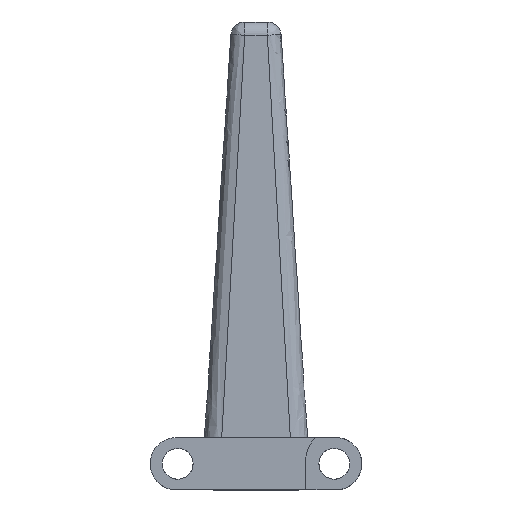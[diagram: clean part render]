
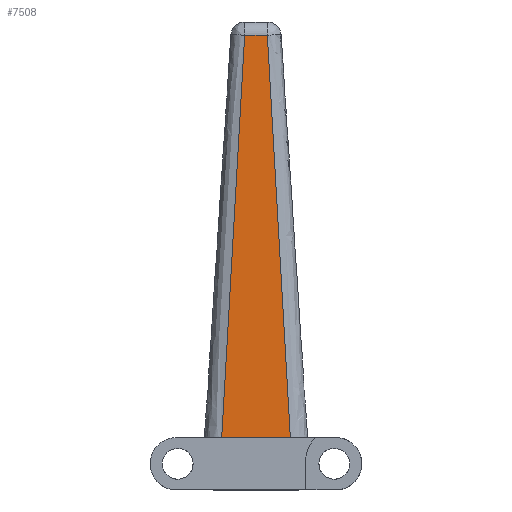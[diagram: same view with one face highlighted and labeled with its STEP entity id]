
A CAD part, front view. The second image highlights one B-rep face of the part: STEP entity #7508.
In plain terms, the highlighted planar face has unit normal (0, -1, 0.009).
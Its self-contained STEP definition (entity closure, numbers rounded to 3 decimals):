
#701 = EDGE_CURVE ( 'NONE', #7469, #15971, #5907, .T. ) ;
#759 = CARTESIAN_POINT ( 'NONE',  ( -8.5, -73.246, 4.301 ) ) ;
#922 = ORIENTED_EDGE ( 'NONE', *, *, #959, .T. ) ;
#959 = EDGE_CURVE ( 'NONE', #17184, #7469, #5886, .T. ) ;
#1034 = DIRECTION ( 'NONE',  ( 1., 0., 0. ) ) ;
#2176 = CARTESIAN_POINT ( 'NONE',  ( -5.645, -73.246, 4.301 ) ) ;
#2269 = CARTESIAN_POINT ( 'NONE',  ( -3.126, -72.861, 48.427 ) ) ;
#2972 = CARTESIAN_POINT ( 'NONE',  ( 5.646, -73.246, 4.301 ) ) ;
#3526 = CARTESIAN_POINT ( 'NONE',  ( -4.386, -73.054, 26.364 ) ) ;
#4461 = DIRECTION ( 'NONE',  ( 0., -0.009, -1. ) ) ;
#4789 = EDGE_CURVE ( 'NONE', #13370, #17184, #10507, .T. ) ;
#5843 = B_SPLINE_CURVE_WITH_KNOTS ( 'NONE', 3,
 ( #15752, #2269, #3526, #2176 ),
 .UNSPECIFIED., .F., .F.,
 ( 4, 4 ),
 ( 0.032, 1. ),
 .UNSPECIFIED. ) ;
#5886 = B_SPLINE_CURVE_WITH_KNOTS ( 'NONE', 3,
 ( #16733, #7291, #12558, #6954 ),
 .UNSPECIFIED., .F., .F.,
 ( 4, 4 ),
 ( 0., 0.968 ),
 .UNSPECIFIED. ) ;
#5907 = LINE ( 'NONE', #12604, #14048 ) ;
#6219 = ORIENTED_EDGE ( 'NONE', *, *, #11859, .T. ) ;
#6954 = CARTESIAN_POINT ( 'NONE',  ( 1.868, -72.669, 70.49 ) ) ;
#7291 = CARTESIAN_POINT ( 'NONE',  ( 4.387, -73.054, 26.364 ) ) ;
#7469 = VERTEX_POINT ( 'NONE', #16593 ) ;
#7508 = ADVANCED_FACE ( 'NONE', ( #9816 ), #12413, .T. ) ;
#8334 = AXIS2_PLACEMENT_3D ( 'NONE', #16681, #12756, #4461 ) ;
#8567 = VECTOR ( 'NONE', #1034, 1000. ) ;
#9115 = CARTESIAN_POINT ( 'NONE',  ( -5.645, -73.246, 4.301 ) ) ;
#9816 = FACE_OUTER_BOUND ( 'NONE', #12439, .T. ) ;
#10507 = LINE ( 'NONE', #759, #8567 ) ;
#11859 = EDGE_CURVE ( 'NONE', #15971, #13370, #5843, .T. ) ;
#11967 = ORIENTED_EDGE ( 'NONE', *, *, #701, .T. ) ;
#12413 = PLANE ( 'NONE',  #8334 ) ;
#12439 = EDGE_LOOP ( 'NONE', ( #922, #11967, #6219, #17414 ) ) ;
#12558 = CARTESIAN_POINT ( 'NONE',  ( 3.127, -72.861, 48.427 ) ) ;
#12604 = CARTESIAN_POINT ( 'NONE',  ( -8.5, -72.669, 70.49 ) ) ;
#12756 = DIRECTION ( 'NONE',  ( 0., -1., 0.009 ) ) ;
#13370 = VERTEX_POINT ( 'NONE', #9115 ) ;
#14048 = VECTOR ( 'NONE', #17048, 1000. ) ;
#15752 = CARTESIAN_POINT ( 'NONE',  ( -1.867, -72.669, 70.49 ) ) ;
#15971 = VERTEX_POINT ( 'NONE', #16269 ) ;
#16269 = CARTESIAN_POINT ( 'NONE',  ( -1.867, -72.669, 70.49 ) ) ;
#16593 = CARTESIAN_POINT ( 'NONE',  ( 1.868, -72.669, 70.49 ) ) ;
#16681 = CARTESIAN_POINT ( 'NONE',  ( -8.5, -73.246, 4.301 ) ) ;
#16733 = CARTESIAN_POINT ( 'NONE',  ( 5.646, -73.246, 4.301 ) ) ;
#17048 = DIRECTION ( 'NONE',  ( -1., 0., 0. ) ) ;
#17184 = VERTEX_POINT ( 'NONE', #2972 ) ;
#17414 = ORIENTED_EDGE ( 'NONE', *, *, #4789, .T. ) ;
